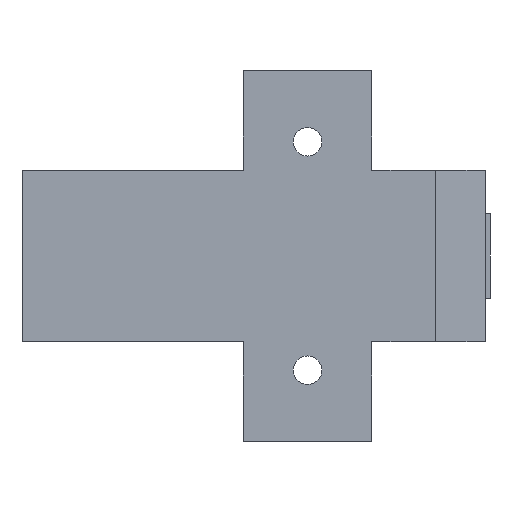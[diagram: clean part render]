
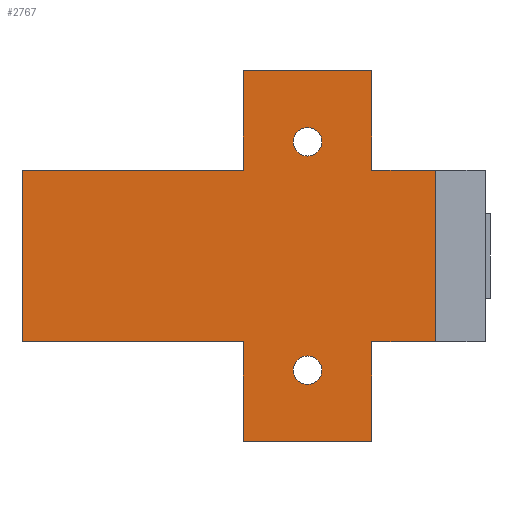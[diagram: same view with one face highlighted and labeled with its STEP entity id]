
A CAD part, left-side view. The second image highlights one B-rep face of the part: STEP entity #2767.
In plain terms, the highlighted planar face has unit normal (-1, 0, 0).
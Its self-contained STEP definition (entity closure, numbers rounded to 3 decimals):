
#10 = VECTOR ( 'NONE', #1175, 1000. ) ;
#18 = AXIS2_PLACEMENT_3D ( 'NONE', #1986, #1987, #1988 ) ;
#32 = VECTOR ( 'NONE', #1159, 1000. ) ;
#53 = CIRCLE ( 'NONE', #171, 2. ) ;
#62 = CIRCLE ( 'NONE', #18, 2. ) ;
#79 = VECTOR ( 'NONE', #1135, 1000. ) ;
#102 = CIRCLE ( 'NONE', #239, 2. ) ;
#129 = VECTOR ( 'NONE', #1156, 1000. ) ;
#150 = VECTOR ( 'NONE', #1167, 1000. ) ;
#171 = AXIS2_PLACEMENT_3D ( 'NONE', #1187, #1188, #1189 ) ;
#192 = VECTOR ( 'NONE', #1163, 1000. ) ;
#217 = VECTOR ( 'NONE', #1151, 1000. ) ;
#239 = AXIS2_PLACEMENT_3D ( 'NONE', #1183, #1184, #1185 ) ;
#261 = VECTOR ( 'NONE', #1181, 1000. ) ;
#306 = VECTOR ( 'NONE', #1178, 1000. ) ;
#322 = AXIS2_PLACEMENT_3D ( 'NONE', #2255, #2256, #2257 ) ;
#329 = CIRCLE ( 'NONE', #322, 2. ) ;
#342 = VECTOR ( 'NONE', #1170, 1000. ) ;
#348 = VECTOR ( 'NONE', #1173, 1000. ) ;
#384 = AXIS2_PLACEMENT_3D ( 'NONE', #577, #572, #581 ) ;
#398 = VECTOR ( 'NONE', #1165, 1000. ) ;
#442 = EDGE_CURVE ( 'NONE', #3138, #3128, #62, .T. ) ;
#475 = VERTEX_POINT ( 'NONE', #2082 ) ;
#478 = VERTEX_POINT ( 'NONE', #2063 ) ;
#481 = VERTEX_POINT ( 'NONE', #2085 ) ;
#483 = VERTEX_POINT ( 'NONE', #2087 ) ;
#484 = VERTEX_POINT ( 'NONE', #2088 ) ;
#493 = VERTEX_POINT ( 'NONE', #2097 ) ;
#506 = VERTEX_POINT ( 'NONE', #2110 ) ;
#507 = VERTEX_POINT ( 'NONE', #2111 ) ;
#570 = FACE_BOUND ( 'NONE', #3186, .T. ) ;
#572 = DIRECTION ( 'NONE',  ( 1., 0., 0. ) ) ;
#576 = FACE_OUTER_BOUND ( 'NONE', #3185, .T. ) ;
#577 = CARTESIAN_POINT ( 'NONE',  ( 0., -12.007, -12. ) ) ;
#579 = FACE_BOUND ( 'NONE', #3182, .T. ) ;
#580 = PLANE ( 'NONE',  #384 ) ;
#581 = DIRECTION ( 'NONE',  ( 0., 0., -1. ) ) ;
#875 = CARTESIAN_POINT ( 'NONE',  ( 0., 40., -12. ) ) ;
#876 = CARTESIAN_POINT ( 'NONE',  ( 0., 9., -12. ) ) ;
#897 = CARTESIAN_POINT ( 'NONE',  ( 0., -17.9, -12. ) ) ;
#978 = CARTESIAN_POINT ( 'NONE',  ( 0., 0., -18. ) ) ;
#984 = CARTESIAN_POINT ( 'NONE',  ( 0., 0., -14. ) ) ;
#998 = CARTESIAN_POINT ( 'NONE',  ( 0., 0., 14. ) ) ;
#1008 = CARTESIAN_POINT ( 'NONE',  ( 0., 0., 18. ) ) ;
#1025 = CARTESIAN_POINT ( 'NONE',  ( 0., 9., -26. ) ) ;
#1133 = LINE ( 'NONE', #1134, #79 ) ;
#1134 = CARTESIAN_POINT ( 'NONE',  ( 0., -12.007, -12. ) ) ;
#1135 = DIRECTION ( 'NONE',  ( 0., 1., 0. ) ) ;
#1140 = LINE ( 'NONE', #1149, #217 ) ;
#1147 = LINE ( 'NONE', #1155, #129 ) ;
#1149 = CARTESIAN_POINT ( 'NONE',  ( 0., -12.007, 12. ) ) ;
#1150 = LINE ( 'NONE', #1164, #398 ) ;
#1151 = DIRECTION ( 'NONE',  ( 0., 1., 0. ) ) ;
#1153 = LINE ( 'NONE', #1166, #150 ) ;
#1155 = CARTESIAN_POINT ( 'NONE',  ( 0., 9., -26. ) ) ;
#1156 = DIRECTION ( 'NONE',  ( 0., 0., 1. ) ) ;
#1157 = LINE ( 'NONE', #1158, #32 ) ;
#1158 = CARTESIAN_POINT ( 'NONE',  ( 0., 40., -12. ) ) ;
#1159 = DIRECTION ( 'NONE',  ( 0., 0., 1. ) ) ;
#1160 = LINE ( 'NONE', #1162, #192 ) ;
#1161 = LINE ( 'NONE', #1174, #10 ) ;
#1162 = CARTESIAN_POINT ( 'NONE',  ( 0., 9., -26. ) ) ;
#1163 = DIRECTION ( 'NONE',  ( 0., 0., 1. ) ) ;
#1164 = CARTESIAN_POINT ( 'NONE',  ( 0., -9., -26. ) ) ;
#1165 = DIRECTION ( 'NONE',  ( 0., 1., 0. ) ) ;
#1166 = CARTESIAN_POINT ( 'NONE',  ( 0., -9., -26. ) ) ;
#1167 = DIRECTION ( 'NONE',  ( 0., 0., 1. ) ) ;
#1168 = LINE ( 'NONE', #1169, #342 ) ;
#1169 = CARTESIAN_POINT ( 'NONE',  ( 0., -12.007, -12. ) ) ;
#1170 = DIRECTION ( 'NONE',  ( 0., 1., 0. ) ) ;
#1171 = LINE ( 'NONE', #1172, #348 ) ;
#1172 = CARTESIAN_POINT ( 'NONE',  ( 0., -17.9, 30.452 ) ) ;
#1173 = DIRECTION ( 'NONE',  ( 0., 0., -1. ) ) ;
#1174 = CARTESIAN_POINT ( 'NONE',  ( 0., -12.007, 12. ) ) ;
#1175 = DIRECTION ( 'NONE',  ( 0., 1., 0. ) ) ;
#1176 = LINE ( 'NONE', #1177, #306 ) ;
#1177 = CARTESIAN_POINT ( 'NONE',  ( 0., -9., -26. ) ) ;
#1178 = DIRECTION ( 'NONE',  ( 0., 0., 1. ) ) ;
#1179 = LINE ( 'NONE', #1180, #261 ) ;
#1180 = CARTESIAN_POINT ( 'NONE',  ( 0., -9., 26. ) ) ;
#1181 = DIRECTION ( 'NONE',  ( 0., 1., 0. ) ) ;
#1183 = CARTESIAN_POINT ( 'NONE',  ( 0., 0., 16. ) ) ;
#1184 = DIRECTION ( 'NONE',  ( 1., 0., 0. ) ) ;
#1185 = DIRECTION ( 'NONE',  ( 0., 0., -1. ) ) ;
#1187 = CARTESIAN_POINT ( 'NONE',  ( 0., 0., -16. ) ) ;
#1188 = DIRECTION ( 'NONE',  ( -1., 0., 0. ) ) ;
#1189 = DIRECTION ( 'NONE',  ( 0., 0., 1. ) ) ;
#1788 = EDGE_CURVE ( 'NONE', #3108, #3114, #329, .T. ) ;
#1881 = ORIENTED_EDGE ( 'NONE', *, *, #2617, .F. ) ;
#1986 = CARTESIAN_POINT ( 'NONE',  ( 0., 0., 16. ) ) ;
#1987 = DIRECTION ( 'NONE',  ( 1., 0., 0. ) ) ;
#1988 = DIRECTION ( 'NONE',  ( 0., 0., -1. ) ) ;
#2063 = CARTESIAN_POINT ( 'NONE',  ( 0., -9., 26. ) ) ;
#2082 = CARTESIAN_POINT ( 'NONE',  ( 0., 40., 12. ) ) ;
#2085 = CARTESIAN_POINT ( 'NONE',  ( 0., -9., 12. ) ) ;
#2087 = CARTESIAN_POINT ( 'NONE',  ( 0., -9., -12. ) ) ;
#2088 = CARTESIAN_POINT ( 'NONE',  ( 0., 9., 12. ) ) ;
#2097 = CARTESIAN_POINT ( 'NONE',  ( 0., -17.9, 12. ) ) ;
#2110 = CARTESIAN_POINT ( 'NONE',  ( 0., 9., 26. ) ) ;
#2111 = CARTESIAN_POINT ( 'NONE',  ( 0., -9., -26. ) ) ;
#2255 = CARTESIAN_POINT ( 'NONE',  ( 0., 0., -16. ) ) ;
#2256 = DIRECTION ( 'NONE',  ( -1., 0., 0. ) ) ;
#2257 = DIRECTION ( 'NONE',  ( 0., 0., 1. ) ) ;
#2414 = ORIENTED_EDGE ( 'NONE', *, *, #2615, .T. ) ;
#2415 = ORIENTED_EDGE ( 'NONE', *, *, #2618, .F. ) ;
#2416 = ORIENTED_EDGE ( 'NONE', *, *, #2610, .F. ) ;
#2417 = ORIENTED_EDGE ( 'NONE', *, *, #2619, .F. ) ;
#2418 = ORIENTED_EDGE ( 'NONE', *, *, #2620, .F. ) ;
#2419 = ORIENTED_EDGE ( 'NONE', *, *, #2621, .T. ) ;
#2420 = ORIENTED_EDGE ( 'NONE', *, *, #2622, .F. ) ;
#2421 = ORIENTED_EDGE ( 'NONE', *, *, #2623, .F. ) ;
#2422 = ORIENTED_EDGE ( 'NONE', *, *, #2624, .T. ) ;
#2423 = ORIENTED_EDGE ( 'NONE', *, *, #2625, .T. ) ;
#2424 = ORIENTED_EDGE ( 'NONE', *, *, #2626, .T. ) ;
#2425 = ORIENTED_EDGE ( 'NONE', *, *, #2627, .T. ) ;
#2426 = ORIENTED_EDGE ( 'NONE', *, *, #442, .T. ) ;
#2427 = ORIENTED_EDGE ( 'NONE', *, *, #1788, .F. ) ;
#2428 = ORIENTED_EDGE ( 'NONE', *, *, #2628, .F. ) ;
#2610 = EDGE_CURVE ( 'NONE', #3003, #3002, #1133, .T. ) ;
#2615 = EDGE_CURVE ( 'NONE', #484, #475, #1140, .T. ) ;
#2617 = EDGE_CURVE ( 'NONE', #484, #506, #1147, .T. ) ;
#2618 = EDGE_CURVE ( 'NONE', #3002, #475, #1157, .T. ) ;
#2619 = EDGE_CURVE ( 'NONE', #3266, #3003, #1160, .T. ) ;
#2620 = EDGE_CURVE ( 'NONE', #507, #3266, #1150, .T. ) ;
#2621 = EDGE_CURVE ( 'NONE', #507, #483, #1153, .T. ) ;
#2622 = EDGE_CURVE ( 'NONE', #3026, #483, #1168, .T. ) ;
#2623 = EDGE_CURVE ( 'NONE', #493, #3026, #1171, .T. ) ;
#2624 = EDGE_CURVE ( 'NONE', #493, #481, #1161, .T. ) ;
#2625 = EDGE_CURVE ( 'NONE', #481, #478, #1176, .T. ) ;
#2626 = EDGE_CURVE ( 'NONE', #478, #506, #1179, .T. ) ;
#2627 = EDGE_CURVE ( 'NONE', #3128, #3138, #102, .T. ) ;
#2628 = EDGE_CURVE ( 'NONE', #3114, #3108, #53, .T. ) ;
#2767 = ADVANCED_FACE ( 'NONE', ( #576, #570, #579 ), #580, .F. ) ;
#3002 = VERTEX_POINT ( 'NONE', #875 ) ;
#3003 = VERTEX_POINT ( 'NONE', #876 ) ;
#3026 = VERTEX_POINT ( 'NONE', #897 ) ;
#3108 = VERTEX_POINT ( 'NONE', #978 ) ;
#3114 = VERTEX_POINT ( 'NONE', #984 ) ;
#3128 = VERTEX_POINT ( 'NONE', #998 ) ;
#3138 = VERTEX_POINT ( 'NONE', #1008 ) ;
#3182 = EDGE_LOOP ( 'NONE', ( #2427, #2428 ) ) ;
#3185 = EDGE_LOOP ( 'NONE', ( #1881, #2414, #2415, #2416, #2417, #2418, #2419, #2420, #2421, #2422, #2423, #2424 ) ) ;
#3186 = EDGE_LOOP ( 'NONE', ( #2425, #2426 ) ) ;
#3266 = VERTEX_POINT ( 'NONE', #1025 ) ;
